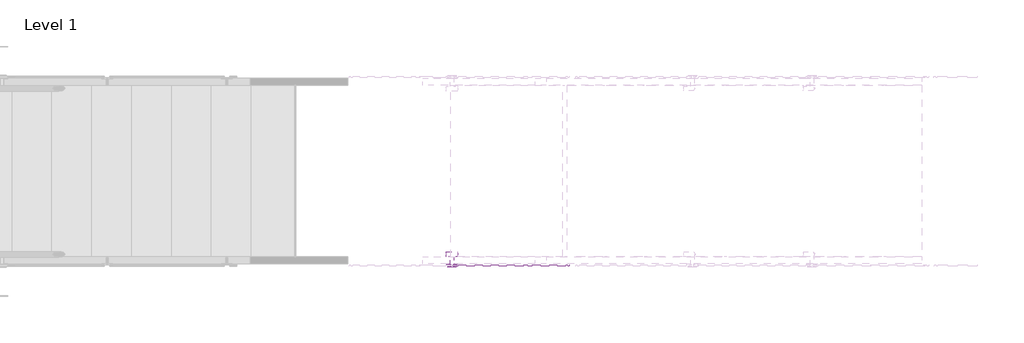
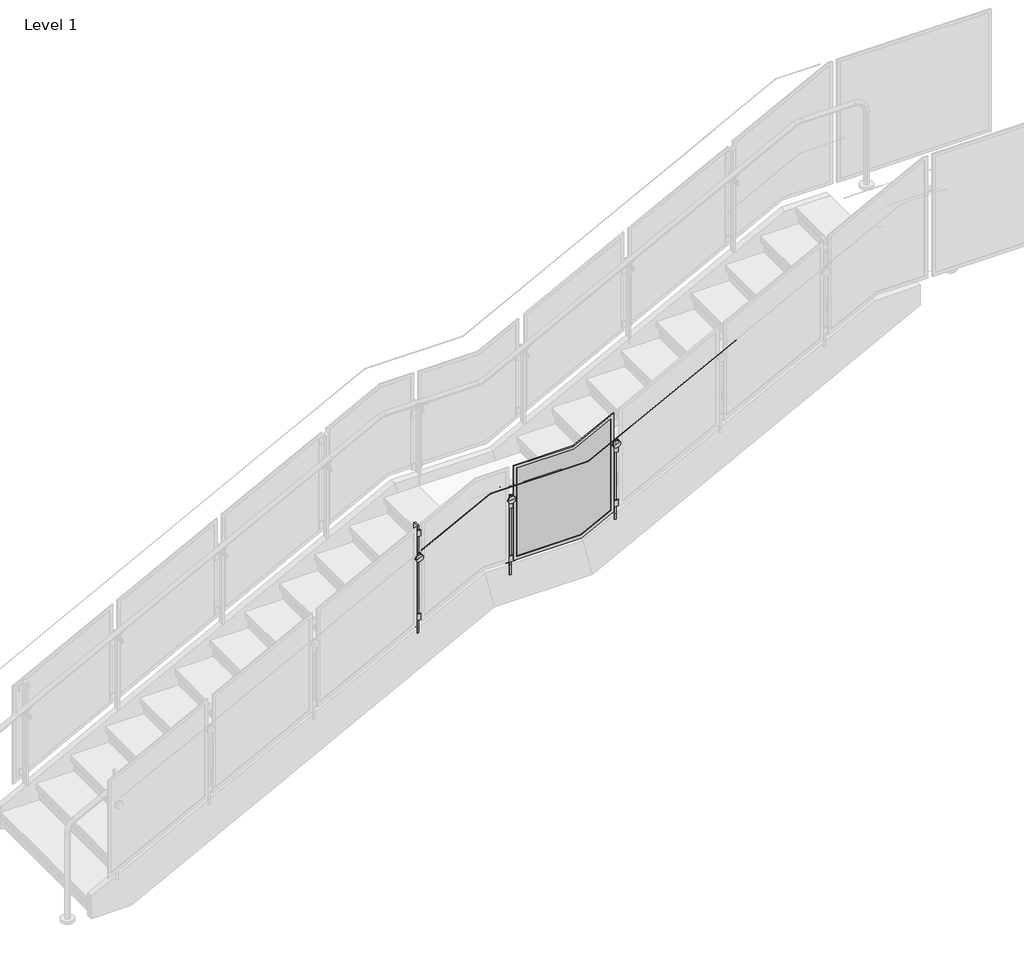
# One storey, part 5 of 28: 2 railings.
"""IFC4 building model written with IfcOpenShell, lengths in millimetres."""

from ifc_helpers import new_model, si_unit, point, frame, frame_2d, origin, place, context, project, spatial, polyline, circle_curve, ellipse_curve, trimmed, segment, composite_curve, outline, extrude, transform, mapped, element, save
from ifc_brep_helpers import plane_surface, cylinder_surface, advanced_brep
from components import standard_pp01_0fd2b1c0

model = new_model("IFC4")

# Units and contexts
model_context = context("Model", 3, world=origin())
ifc_project = project(units=[si_unit("LENGTHUNIT", "METRE", prefix="MILLI")], contexts=[model_context])

# Site, building, storey
site = spatial("IfcSite", under=ifc_project)
building = spatial("IfcBuilding", under=site)
storey = spatial("IfcBuildingStorey", under=building, Name="Level 1", Elevation=0.0)

# Railings
placement = place(None, origin())
element("IfcRailing", 1, ObjectType="Metal-Panel-VIVA-STRUC-Slab-Top-Weld-Stairs-Landing", at=placement, inside=storey, context=model_context, shape_type="SolidModel", body=[
    advanced_brep(
    [(-16484.3313244, -31698.1375116, 2381.2638324), (-16484.3313244, -31697.1375116, 2381.2638324), (-15931.7592018, -31698.1375116, 2668.3142857), (-15931.7592018, -31697.1375116, 2668.3142857), (-15144.3592018, -31698.1375116, 2668.3142857), (-15144.3592018, -31697.1375116, 2668.3142857), (-13959.1395244, -31698.1375116, 3284.0128194), (-13959.1395244, -31697.1375116, 3284.0128194)],
    [
        (0, 1, ellipse_curve(frame((-16484.3313244, -31697.6375116, 2381.2638324), z_axis=(-1.0, 0.0, 0.0), x_axis=(0.0, 0.0, -1.0)), 0.5634403, 0.5)),
        (1, 0, ellipse_curve(frame((-16484.3313244, -31697.6375116, 2381.2638324), z_axis=(-1.0, 0.0, 0.0), x_axis=(0.0, 0.0, -1.0)), 0.5634403, 0.5)),
        (0, 2),
        (2, 3, ellipse_curve(frame((-15931.7592018, -31697.6375116, 2668.3142857), z_axis=(-0.9714436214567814, 0.0, -0.23727050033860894), x_axis=(0.23727050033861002, 0.0, -0.971443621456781)), 0.5146979, 0.5)),
        (3, 1),
        (3, 2, ellipse_curve(frame((-15931.7592018, -31697.6375116, 2668.3142857), z_axis=(-0.9714436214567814, 0.0, -0.23727050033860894), x_axis=(0.23727050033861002, 0.0, -0.971443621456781)), 0.5146979, 0.5)),
        (2, 4),
        (4, 5, ellipse_curve(frame((-15144.3592018, -31697.6375116, 2668.3142857), z_axis=(-0.9714436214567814, 0.0, -0.2372705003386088), x_axis=(-0.23727050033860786, 0.0, 0.9714436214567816)), 0.5146979, 0.5)),
        (5, 3),
        (5, 4, ellipse_curve(frame((-15144.3592018, -31697.6375116, 2668.3142857), z_axis=(-0.9714436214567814, 0.0, -0.2372705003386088), x_axis=(-0.23727050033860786, 0.0, 0.9714436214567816)), 0.5146979, 0.5)),
        (6, 7, ellipse_curve(frame((-13959.1395244, -31697.6375116, 3284.0128194), z_axis=(1.0, 0.0, 0.0), x_axis=(0.0, 0.0, -1.0)), 0.5634403, 0.5)),
        (7, 6, ellipse_curve(frame((-13959.1395244, -31697.6375116, 3284.0128194), z_axis=(1.0, 0.0, 0.0), x_axis=(0.0, 0.0, -1.0)), 0.5634403, 0.5)),
        (4, 6),
        (7, 5),
    ],
    [
        plane_surface(frame((-16484.3313244, -31697.6375116, 2381.8272727), z_axis=(-1.0, 0.0, 0.0), x_axis=(0.0, 1.0, 0.0))),
        cylinder_surface(frame((-16484.1008295, -31697.6375116, 2381.38357), z_axis=(-0.8874054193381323, 0.0, -0.46098982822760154), x_axis=(0.0, 1.0, 0.0)), 0.5),
        cylinder_surface(frame((-15931.8813244, -31697.6375116, 2668.3142857), z_axis=(-1.0, 0.0, 0.0), x_axis=(0.0, 1.0, 0.0)), 0.5),
        plane_surface(frame((-13959.1395244, -31697.6375116, 3284.5762597), z_axis=(1.0, 0.0, 0.0), x_axis=(0.0, 1.0, 0.0))),
        cylinder_surface(frame((-15144.2508295, -31697.6375116, 2668.370583), z_axis=(-0.8874054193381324, 0.0, -0.46098982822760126), x_axis=(0.0, 1.0, 0.0)), 0.5),
    ],
    [
        (0, [[1, 2]]),
        (1, [[-1, 3, 4, 5]]),
        (1, [[-2, -5, 6, -3]]),
        (2, [[-4, 7, 8, 9]]),
        (2, [[-6, -9, 10, -7]]),
        (3, [[11, 12]]),
        (4, [[-8, 13, -12, 14]]),
        (4, [[-10, -14, -11, -13]]),
    ],
),
    extrude(outline(polyline([(-14838.9708437, -31472.8759116), (-14762.7694052, -31472.8759116), (-14762.7694052, -31479.9879116), (-14838.9708437, -31479.9879116), (-14838.9708437, -31472.8759116)])), frame((0.0, 0.0, 2490.1896104), z_axis=(0.0, 0.0, 1.0), x_axis=(1.0, 0.0, 0.0)), (0.0, 0.0, 1.0), 50.8),
    extrude(outline(polyline([(-14838.9708437, -31472.8759116), (-14762.7694052, -31472.8759116), (-14762.7694052, -31479.9879116), (-14838.9708437, -31479.9879116), (-14838.9708437, -31472.8759116)])), frame((0.0, 0.0, 2032.9896104), z_axis=(0.0, 0.0, 1.0), x_axis=(1.0, 0.0, 0.0)), (0.0, 0.0, 1.0), 50.8),
    extrude(outline(composite_curve([segment(polyline([(2.99974, 1e-07), (0.0, 0.0)]), True, "CONTINUOUS"), segment(trimmed(circle_curve(frame_2d((-19.0451472, -1e-07)), 19.0451471), [point((0.0, 0.0))], [point((-23.6280664, 18.4855208))], True, "CARTESIAN"), True, "CONTINUOUS"), segment(polyline([(-23.6280664, 18.4855208), (-24.3499073, 21.397116)]), True, "CONTINUOUS"), segment(trimmed(circle_curve(frame_2d((-19.0451472, -1e-07)), 22.0448871), [point((-24.3499073, 21.397116))], [point((2.99974, 1e-07))], False, "CARTESIAN"), True, "CONTINUOUS")], self_intersect=False)), frame((-14863.3578349, -31418.7879116, 2605.6654072), z_axis=(0.8874054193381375, 0.0, 0.4609898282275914), x_axis=(0.28405456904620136, -0.7876022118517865, -0.5468050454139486)), (0.0, 0.0, 1.0), 79.1184357),
    advanced_brep(
    [(-14788.4729468, -31403.7879116, 2547.3256434), (-14788.4729468, -31410.9316616, 2547.3256434), (-14788.4729468, -31396.6441616, 2547.3256434), (-14824.3321931, -31410.9316616, 2616.3546925), (-14824.3321931, -31403.7879116, 2616.3546925), (-14824.3321931, -31396.6441616, 2616.3546925)],
    [
        (0, 1),
        (1, 2, circle_curve(frame((-14788.4729468, -31403.7879116, 2547.3256434), z_axis=(0.46098982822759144, 0.0, -0.8874054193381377), x_axis=(0.0, 1.0000000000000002, 0.0)), 7.14375)),
        (2, 0),
        (3, 4),
        (4, 5),
        (5, 3, circle_curve(frame((-14824.3321931, -31403.7879116, 2616.3546925), z_axis=(-0.46098982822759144, 0.0, 0.8874054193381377), x_axis=(0.0, 1.0000000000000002, 0.0)), 7.14375)),
        (2, 1, circle_curve(frame((-14788.4729468, -31403.7879116, 2547.3256434), z_axis=(0.46098982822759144, 0.0, -0.8874054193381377), x_axis=(0.0, 1.0000000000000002, 0.0)), 7.14375)),
        (3, 5, circle_curve(frame((-14824.3321931, -31403.7879116, 2616.3546925), z_axis=(-0.46098982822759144, 0.0, 0.8874054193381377), x_axis=(0.0, 1.0000000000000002, 0.0)), 7.14375)),
        (1, 3),
        (5, 2),
    ],
    [
        plane_surface(frame((-14788.4729468, -31403.7879116, 2547.3256434), z_axis=(0.46098982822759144, 0.0, -0.8874054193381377), x_axis=(0.0, 1.0, 0.0))),
        plane_surface(frame((-14824.3321931, -31403.7879116, 2616.3546925), z_axis=(-0.46098982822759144, 0.0, 0.8874054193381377), x_axis=(0.0, 1.0, 0.0))),
        cylinder_surface(frame((-14671.5187469, -31403.7879116, 2322.1888087), z_axis=(0.46098982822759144, 0.0, -0.8874054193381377), x_axis=(0.0, 1.0000000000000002, 0.0)), 7.14375),
    ],
    [
        (0, [[1, 2, 3]]),
        (1, [[4, 5, 6]]),
        (0, [[-3, 7, -1]]),
        (1, [[-5, -4, 8]]),
        (2, [[9, -6, 10, -2]]),
        (2, [[-10, -8, -9, -7]]),
    ],
),
    advanced_brep(
    [(-14827.6364904, -31489.5129116, 2557.2856047), (-14806.5051488, -31489.5129116, 2568.262925), (-14795.2351, -31489.5129116, 2574.1174958), (-14774.1037585, -31489.5129116, 2585.0948161), (-14827.6364904, -31497.4504116, 2557.2856047), (-14774.1037585, -31497.4504116, 2585.0948161), (-14827.6364904, -31472.0504116, 2557.2856047), (-14812.1401733, -31472.0504116, 2565.3356396), (-14789.6000756, -31472.0504116, 2577.0447812), (-14774.1037585, -31472.0504116, 2585.0948161), (-14827.6364904, -31479.9879116, 2557.2856047), (-14774.1037585, -31479.9879116, 2585.0948161), (-14800.8701244, -31497.4504116, 2571.1902104), (-14812.1401733, -31392.6754116, 2565.3356396), (-14800.8701244, -31392.6754116, 2571.1902104), (-14789.6000756, -31392.6754116, 2577.0447812), (-14806.5051488, -31479.9879116, 2568.262925), (-14795.2351, -31479.9879116, 2574.1174958)],
    [
        (0, 1),
        (1, 2, circle_curve(frame((-14800.8701244, -31489.5129116, 2571.1902104), z_axis=(0.0, -1.0, 0.0), x_axis=(0.8874054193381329, 0.0, 0.46098982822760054)), 6.35)),
        (2, 3),
        (3, 0, circle_curve(frame((-14800.8701244, -31489.5129116, 2571.1902104), z_axis=(0.0, 1.0, 0.0), x_axis=(0.8874054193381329, 0.0, 0.46098982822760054)), 30.1625)),
        (4, 0),
        (3, 5),
        (5, 4, circle_curve(frame((-14800.8701244, -31497.4504116, 2571.1902104), z_axis=(0.0, 1.0, 0.0), x_axis=(0.8874054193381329, 0.0, 0.46098982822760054)), 30.1625)),
        (6, 7),
        (7, 8, circle_curve(frame((-14800.8701244, -31472.0504116, 2571.1902104), z_axis=(0.0, -1.0, 0.0), x_axis=(0.8874054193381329, 0.0, 0.46098982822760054)), 12.7)),
        (8, 9),
        (9, 6, circle_curve(frame((-14800.8701244, -31472.0504116, 2571.1902104), z_axis=(0.0, 1.0, 0.0), x_axis=(0.8874054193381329, 0.0, 0.46098982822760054)), 30.1625)),
        (10, 6),
        (9, 11),
        (11, 10, circle_curve(frame((-14800.8701244, -31479.9879116, 2571.1902104), z_axis=(0.0, 1.0, 0.0), x_axis=(0.8874054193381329, 0.0, 0.46098982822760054)), 30.1625)),
        (3, 0, circle_curve(frame((-14800.8701244, -31489.5129116, 2571.1902104), z_axis=(0.0, -1.0, 0.0), x_axis=(0.8874054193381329, 0.0, 0.46098982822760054)), 30.1625)),
        (4, 5, circle_curve(frame((-14800.8701244, -31497.4504116, 2571.1902104), z_axis=(0.0, 1.0, 0.0), x_axis=(0.8874054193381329, 0.0, 0.46098982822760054)), 30.1625)),
        (12, 4),
        (5, 12),
        (13, 14),
        (14, 15),
        (15, 13, circle_curve(frame((-14800.8701244, -31392.6754116, 2571.1902104), z_axis=(0.0, 1.0, 0.0), x_axis=(0.8874054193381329, 0.0, 0.46098982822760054)), 12.7)),
        (13, 15, circle_curve(frame((-14800.8701244, -31392.6754116, 2571.1902104), z_axis=(0.0, 1.0, 0.0), x_axis=(0.8874054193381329, 0.0, 0.46098982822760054)), 12.7)),
        (7, 13),
        (15, 8),
        (7, 8, circle_curve(frame((-14800.8701244, -31472.0504116, 2571.1902104), z_axis=(0.0, 1.0, 0.0), x_axis=(0.8874054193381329, 0.0, 0.46098982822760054)), 12.7)),
        (6, 9, circle_curve(frame((-14800.8701244, -31472.0504116, 2571.1902104), z_axis=(0.0, 1.0, 0.0), x_axis=(0.8874054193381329, 0.0, 0.46098982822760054)), 30.1625)),
        (10, 11, circle_curve(frame((-14800.8701244, -31479.9879116, 2571.1902104), z_axis=(0.0, 1.0, 0.0), x_axis=(0.8874054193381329, 0.0, 0.46098982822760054)), 30.1625)),
        (16, 10),
        (11, 17),
        (17, 16, circle_curve(frame((-14800.8701244, -31479.9879116, 2571.1902104), z_axis=(0.0, 1.0, 0.0), x_axis=(0.8874054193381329, 0.0, 0.46098982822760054)), 6.35)),
        (16, 17, circle_curve(frame((-14800.8701244, -31479.9879116, 2571.1902104), z_axis=(0.0, 1.0, 0.0), x_axis=(0.8874054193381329, 0.0, 0.46098982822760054)), 6.35)),
        (1, 16),
        (17, 2),
        (1, 2, circle_curve(frame((-14800.8701244, -31489.5129116, 2571.1902104), z_axis=(0.0, 1.0, 0.0), x_axis=(0.8874054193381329, 0.0, 0.46098982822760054)), 6.35)),
    ],
    [
        plane_surface(frame((-14800.8701244, -31489.5129116, 2571.1902104), z_axis=(0.0, 1.0000000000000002, 0.0), x_axis=(0.8874054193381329, 0.0, 0.46098982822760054))),
        cylinder_surface(frame((-14800.8701244, -33003.9879116, 2571.1902104), z_axis=(0.0, -1.0000000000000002, 0.0), x_axis=(0.8874054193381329, 0.0, 0.46098982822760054)), 30.1625),
        plane_surface(frame((-14800.8701244, -31472.0504116, 2571.1902104), z_axis=(0.0, 1.0000000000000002, 0.0), x_axis=(0.8874054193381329, 0.0, 0.46098982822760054))),
        plane_surface(frame((-14800.8701244, -31497.4504116, 2571.1902104), z_axis=(0.0, -1.0000000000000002, 0.0), x_axis=(0.8874054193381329, 0.0, 0.46098982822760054))),
        plane_surface(frame((-14800.8701244, -31392.6754116, 2571.1902104), z_axis=(0.0, 1.0000000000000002, 0.0), x_axis=(0.8874054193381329, 0.0, 0.46098982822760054))),
        cylinder_surface(frame((-14800.8701244, -33003.9879116, 2571.1902104), z_axis=(0.0, -1.0000000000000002, 0.0), x_axis=(0.8874054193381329, 0.0, 0.46098982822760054)), 12.7),
        plane_surface(frame((-14800.8701244, -31479.9879116, 2571.1902104), z_axis=(0.0, -1.0000000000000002, 0.0), x_axis=(0.8874054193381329, 0.0, 0.46098982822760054))),
        cylinder_surface(frame((-14800.8701244, -33003.9879116, 2571.1902104), z_axis=(0.0, -1.0000000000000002, 0.0), x_axis=(0.8874054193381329, 0.0, 0.46098982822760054)), 6.35),
    ],
    [
        (0, [[1, 2, 3, 4]]),
        (1, [[5, -4, 6, 7]]),
        (2, [[8, 9, 10, 11]]),
        (1, [[12, -11, 13, 14]]),
        (1, [[-6, 15, -5, 16]]),
        (3, [[17, -7, 18]]),
        (3, [[-18, -16, -17]]),
        (4, [[19, 20, 21]]),
        (4, [[-20, -19, 22]]),
        (5, [[23, -21, 24, -9]]),
        (5, [[-24, -22, -23, 25]]),
        (2, [[-10, -25, -8, 26]]),
        (1, [[-13, -26, -12, 27]]),
        (6, [[28, -14, 29, 30]]),
        (6, [[-29, -27, -28, 31]]),
        (7, [[32, -30, 33, -2]]),
        (7, [[-33, -31, -32, 34]]),
        (0, [[-3, -34, -1, -15]]),
    ],
),
    extrude(outline(polyline([(-14808.8097161, -31428.4259116), (-14792.9305328, -31428.4259116), (-14792.9305328, -31472.8759116), (-14808.8097161, -31472.8759116), (-14808.8097161, -31428.4259116)])), frame((0.0, 0.0, 1920.2136104), z_axis=(0.0, 0.0, 1.0), x_axis=(1.0, 0.0, 0.0)), (0.0, 0.0, 1.0), 660.4),
    extrude(outline(polyline([(-15680.7014437, -31472.8759116), (-15604.5000052, -31472.8759116), (-15604.5000052, -31479.9879116), (-15680.7014437, -31479.9879116), (-15680.7014437, -31472.8759116)])), frame((0.0, 0.0, 2311.6902857), z_axis=(0.0, 0.0, 1.0), x_axis=(1.0, 0.0, 0.0)), (0.0, 0.0, 1.0), 50.8),
    extrude(outline(polyline([(-15680.7014437, -31472.8759116), (-15604.5000052, -31472.8759116), (-15604.5000052, -31479.9879116), (-15680.7014437, -31479.9879116), (-15680.7014437, -31472.8759116)])), frame((0.0, 0.0, 1854.4902857), z_axis=(0.0, 0.0, 1.0), x_axis=(1.0, 0.0, 0.0)), (0.0, 0.0, 1.0), 50.8),
    extrude(outline(composite_curve([segment(polyline([(-31421.1505134, 2450.2421693), (-31418.7879116, 2452.0905611)]), True, "CONTINUOUS"), segment(trimmed(circle_curve(frame_2d((-31403.7879116, 2463.8258766)), 19.0451471), [point((-31418.7879116, 2452.0905611))], [point((-31388.7879116, 2452.0905611))], True, "CARTESIAN"), True, "CONTINUOUS"), segment(polyline([(-31388.7879116, 2452.0905611), (-31386.4253097, 2450.2421693)]), True, "CONTINUOUS"), segment(trimmed(circle_curve(frame_2d((-31403.7879116, 2463.8258766)), 22.0448871), [point((-31386.4253097, 2450.2421693))], [point((-31421.1505134, 2450.2421693))], False, "CARTESIAN"), True, "CONTINUOUS")], self_intersect=False)), frame((-15682.1599423, 0.0, 0.0), z_axis=(1.0, 0.0, 0.0), x_axis=(0.0, 1.0, 0.0)), (0.0, 0.0, 1.0), 79.1184357),
    advanced_brep(
    [(-15642.6007244, -31403.7879116, 2365.7983669), (-15642.6007244, -31410.9316616, 2365.7983669), (-15642.6007244, -31396.6441616, 2365.7983669), (-15642.6007244, -31410.9316616, 2443.5858669), (-15642.6007244, -31403.7879116, 2443.5858669), (-15642.6007244, -31396.6441616, 2443.5858669)],
    [
        (0, 1),
        (1, 2, circle_curve(frame((-15642.6007244, -31403.7879116, 2365.7983669), z_axis=(0.0, 0.0, -1.0), x_axis=(0.0, 1.0, 0.0)), 7.14375)),
        (2, 0),
        (3, 4),
        (4, 5),
        (5, 3, circle_curve(frame((-15642.6007244, -31403.7879116, 2443.5858669), z_axis=(0.0, 0.0, 1.0), x_axis=(0.0, 1.0, 0.0)), 7.14375)),
        (2, 1, circle_curve(frame((-15642.6007244, -31403.7879116, 2365.7983669), z_axis=(0.0, 0.0, -1.0), x_axis=(0.0, 1.0, 0.0)), 7.14375)),
        (3, 5, circle_curve(frame((-15642.6007244, -31403.7879116, 2443.5858669), z_axis=(0.0, 0.0, 1.0), x_axis=(0.0, 1.0, 0.0)), 7.14375)),
        (1, 3),
        (5, 2),
    ],
    [
        plane_surface(frame((-15642.6007244, -31403.7879116, 2365.7983669), z_axis=(0.0, 0.0, -1.0), x_axis=(0.0, 1.0, 0.0))),
        plane_surface(frame((-15642.6007244, -31403.7879116, 2443.5858669), z_axis=(0.0, 0.0, 1.0), x_axis=(0.0, 1.0, 0.0))),
        cylinder_surface(frame((-15642.6007244, -31403.7879116, 2112.0960231), z_axis=(0.0, 0.0, -1.0), x_axis=(0.0, 1.0, 0.0)), 7.14375),
    ],
    [
        (0, [[1, 2, 3]]),
        (1, [[4, 5, 6]]),
        (0, [[-3, 7, -1]]),
        (1, [[-5, -4, 8]]),
        (2, [[9, -6, 10, -2]]),
        (2, [[-10, -8, -9, -7]]),
    ],
),
    advanced_brep(
    [(-15672.7632244, -31489.5129116, 2392.6908857), (-15648.9507244, -31489.5129116, 2392.6908857), (-15636.2507244, -31489.5129116, 2392.6908857), (-15612.4382244, -31489.5129116, 2392.6908857), (-15672.7632244, -31497.4504116, 2392.6908857), (-15612.4382244, -31497.4504116, 2392.6908857), (-15672.7632244, -31472.0504116, 2392.6908857), (-15655.3007244, -31472.0504116, 2392.6908857), (-15629.9007244, -31472.0504116, 2392.6908857), (-15612.4382244, -31472.0504116, 2392.6908857), (-15672.7632244, -31479.9879116, 2392.6908857), (-15612.4382244, -31479.9879116, 2392.6908857), (-15642.6007244, -31497.4504116, 2392.6908857), (-15655.3007244, -31392.6754116, 2392.6908857), (-15642.6007244, -31392.6754116, 2392.6908857), (-15629.9007244, -31392.6754116, 2392.6908857), (-15648.9507244, -31479.9879116, 2392.6908857), (-15636.2507244, -31479.9879116, 2392.6908857)],
    [
        (0, 1),
        (1, 2, circle_curve(frame((-15642.6007244, -31489.5129116, 2392.6908857), z_axis=(0.0, -1.0, 0.0), x_axis=(1.0, 0.0, 0.0)), 6.35)),
        (2, 3),
        (3, 0, circle_curve(frame((-15642.6007244, -31489.5129116, 2392.6908857), z_axis=(0.0, 1.0, 0.0), x_axis=(1.0, 0.0, 0.0)), 30.1625)),
        (4, 0),
        (3, 5),
        (5, 4, circle_curve(frame((-15642.6007244, -31497.4504116, 2392.6908857), z_axis=(0.0, 1.0, 0.0), x_axis=(1.0, 0.0, 0.0)), 30.1625)),
        (6, 7),
        (7, 8, circle_curve(frame((-15642.6007244, -31472.0504116, 2392.6908857), z_axis=(0.0, -1.0, 0.0), x_axis=(1.0, 0.0, 0.0)), 12.7)),
        (8, 9),
        (9, 6, circle_curve(frame((-15642.6007244, -31472.0504116, 2392.6908857), z_axis=(0.0, 1.0, 0.0), x_axis=(1.0, 0.0, 0.0)), 30.1625)),
        (10, 6),
        (9, 11),
        (11, 10, circle_curve(frame((-15642.6007244, -31479.9879116, 2392.6908857), z_axis=(0.0, 1.0, 0.0), x_axis=(1.0, 0.0, 0.0)), 30.1625)),
        (3, 0, circle_curve(frame((-15642.6007244, -31489.5129116, 2392.6908857), z_axis=(0.0, -1.0, 0.0), x_axis=(1.0, 0.0, 0.0)), 30.1625)),
        (4, 5, circle_curve(frame((-15642.6007244, -31497.4504116, 2392.6908857), z_axis=(0.0, 1.0, 0.0), x_axis=(1.0, 0.0, 0.0)), 30.1625)),
        (12, 4),
        (5, 12),
        (13, 14),
        (14, 15),
        (15, 13, circle_curve(frame((-15642.6007244, -31392.6754116, 2392.6908857), z_axis=(0.0, 1.0, 0.0), x_axis=(1.0, 0.0, 0.0)), 12.7)),
        (13, 15, circle_curve(frame((-15642.6007244, -31392.6754116, 2392.6908857), z_axis=(0.0, 1.0, 0.0), x_axis=(1.0, 0.0, 0.0)), 12.7)),
        (7, 13),
        (15, 8),
        (7, 8, circle_curve(frame((-15642.6007244, -31472.0504116, 2392.6908857), z_axis=(0.0, 1.0, 0.0), x_axis=(1.0, 0.0, 0.0)), 12.7)),
        (6, 9, circle_curve(frame((-15642.6007244, -31472.0504116, 2392.6908857), z_axis=(0.0, 1.0, 0.0), x_axis=(1.0, 0.0, 0.0)), 30.1625)),
        (10, 11, circle_curve(frame((-15642.6007244, -31479.9879116, 2392.6908857), z_axis=(0.0, 1.0, 0.0), x_axis=(1.0, 0.0, 0.0)), 30.1625)),
        (16, 10),
        (11, 17),
        (17, 16, circle_curve(frame((-15642.6007244, -31479.9879116, 2392.6908857), z_axis=(0.0, 1.0, 0.0), x_axis=(1.0, 0.0, 0.0)), 6.35)),
        (16, 17, circle_curve(frame((-15642.6007244, -31479.9879116, 2392.6908857), z_axis=(0.0, 1.0, 0.0), x_axis=(1.0, 0.0, 0.0)), 6.35)),
        (1, 16),
        (17, 2),
        (1, 2, circle_curve(frame((-15642.6007244, -31489.5129116, 2392.6908857), z_axis=(0.0, 1.0, 0.0), x_axis=(1.0, 0.0, 0.0)), 6.35)),
    ],
    [
        plane_surface(frame((-15642.6007244, -31489.5129116, 2392.6908857), z_axis=(0.0, 1.0, 0.0), x_axis=(1.0, 0.0, 0.0))),
        cylinder_surface(frame((-15642.6007244, -33003.9879116, 2392.6908857), z_axis=(0.0, -1.0, 0.0), x_axis=(1.0, 0.0, 0.0)), 30.1625),
        plane_surface(frame((-15642.6007244, -31472.0504116, 2392.6908857), z_axis=(0.0, 1.0, 0.0), x_axis=(1.0, 0.0, 0.0))),
        plane_surface(frame((-15642.6007244, -31497.4504116, 2392.6908857), z_axis=(0.0, -1.0, 0.0), x_axis=(1.0, 0.0, 0.0))),
        plane_surface(frame((-15642.6007244, -31392.6754116, 2392.6908857), z_axis=(0.0, 1.0, 0.0), x_axis=(1.0, 0.0, 0.0))),
        cylinder_surface(frame((-15642.6007244, -33003.9879116, 2392.6908857), z_axis=(0.0, -1.0, 0.0), x_axis=(1.0, 0.0, 0.0)), 12.7),
        plane_surface(frame((-15642.6007244, -31479.9879116, 2392.6908857), z_axis=(0.0, -1.0, 0.0), x_axis=(1.0, 0.0, 0.0))),
        cylinder_surface(frame((-15642.6007244, -33003.9879116, 2392.6908857), z_axis=(0.0, -1.0, 0.0), x_axis=(1.0, 0.0, 0.0)), 6.35),
    ],
    [
        (0, [[1, 2, 3, 4]]),
        (1, [[5, -4, 6, 7]]),
        (2, [[8, 9, 10, 11]]),
        (1, [[12, -11, 13, 14]]),
        (1, [[-6, 15, -5, 16]]),
        (3, [[17, -7, 18]]),
        (3, [[-18, -16, -17]]),
        (4, [[19, 20, 21]]),
        (4, [[-20, -19, 22]]),
        (5, [[23, -21, 24, -9]]),
        (5, [[-24, -22, -23, 25]]),
        (2, [[-10, -25, -8, 26]]),
        (1, [[-13, -26, -12, 27]]),
        (6, [[28, -14, 29, 30]]),
        (6, [[-29, -27, -28, 31]]),
        (7, [[32, -30, 33, -2]]),
        (7, [[-33, -31, -32, 34]]),
        (0, [[-3, -34, -1, -15]]),
    ],
),
    extrude(outline(polyline([(-15650.5403161, -31428.4259116), (-15634.6611328, -31428.4259116), (-15634.6611328, -31472.8759116), (-15650.5403161, -31472.8759116), (-15650.5403161, -31428.4259116)])), frame((0.0, 0.0, 1741.7142857), z_axis=(0.0, 0.0, 1.0), x_axis=(1.0, 0.0, 0.0)), (0.0, 0.0, 1.0), 660.4),
    extrude(outline(polyline([(-16420.8320437, -31472.8759116), (-16344.6306052, -31472.8759116), (-16344.6306052, -31479.9879116), (-16420.8320437, -31479.9879116), (-16420.8320437, -31472.8759116)])), frame((0.0, 0.0, 2331.4824935), z_axis=(0.0, 0.0, 1.0), x_axis=(1.0, 0.0, 0.0)), (0.0, 0.0, 1.0), 50.8),
    extrude(outline(polyline([(-16420.8320437, -31472.8759116), (-16344.6306052, -31472.8759116), (-16344.6306052, -31479.9879116), (-16420.8320437, -31479.9879116), (-16420.8320437, -31472.8759116)])), frame((0.0, 0.0, 1620.2824935), z_axis=(0.0, 0.0, 1.0), x_axis=(1.0, 0.0, 0.0)), (0.0, 0.0, 1.0), 50.8),
    extrude(outline(composite_curve([segment(polyline([(2.9997399, 0.0), (0.0, 0.0)]), True, "CONTINUOUS"), segment(trimmed(circle_curve(frame_2d((-19.0451472, -1e-07)), 19.0451471), [point((0.0, 0.0))], [point((-23.6280664, 18.4855208))], True, "CARTESIAN"), True, "CONTINUOUS"), segment(polyline([(-23.6280664, 18.4855208), (-24.3499073, 21.3971159)]), True, "CONTINUOUS"), segment(trimmed(circle_curve(frame_2d((-19.0451472, -1e-07)), 22.0448871), [point((-24.3499073, 21.3971159))], [point((2.9997399, 0.0))], False, "CARTESIAN"), True, "CONTINUOUS")], self_intersect=False)), frame((-16445.2190349, -31418.7879116, 2192.9582903), z_axis=(0.8874054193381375, 0.0, 0.4609898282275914), x_axis=(0.28405456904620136, -0.7876022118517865, -0.5468050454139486)), (0.0, 0.0, 1.0), 79.1184357),
    advanced_brep(
    [(-16370.3341468, -31403.7879116, 2134.6185266), (-16370.3341468, -31410.9316616, 2134.6185266), (-16370.3341468, -31396.6441616, 2134.6185266), (-16406.1933931, -31410.9316616, 2203.6475756), (-16406.1933931, -31403.7879116, 2203.6475756), (-16406.1933931, -31396.6441616, 2203.6475756)],
    [
        (0, 1),
        (1, 2, circle_curve(frame((-16370.3341468, -31403.7879116, 2134.6185266), z_axis=(0.46098982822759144, 0.0, -0.8874054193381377), x_axis=(0.0, 1.0000000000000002, 0.0)), 7.14375)),
        (2, 0),
        (3, 4),
        (4, 5),
        (5, 3, circle_curve(frame((-16406.1933931, -31403.7879116, 2203.6475756), z_axis=(-0.46098982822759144, 0.0, 0.8874054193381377), x_axis=(0.0, 1.0000000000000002, 0.0)), 7.14375)),
        (2, 1, circle_curve(frame((-16370.3341468, -31403.7879116, 2134.6185266), z_axis=(0.46098982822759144, 0.0, -0.8874054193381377), x_axis=(0.0, 1.0000000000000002, 0.0)), 7.14375)),
        (3, 5, circle_curve(frame((-16406.1933931, -31403.7879116, 2203.6475756), z_axis=(-0.46098982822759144, 0.0, 0.8874054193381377), x_axis=(0.0, 1.0000000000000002, 0.0)), 7.14375)),
        (1, 3),
        (5, 2),
    ],
    [
        plane_surface(frame((-16370.3341468, -31403.7879116, 2134.6185266), z_axis=(0.46098982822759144, 0.0, -0.8874054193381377), x_axis=(0.0, 1.0, 0.0))),
        plane_surface(frame((-16406.1933931, -31403.7879116, 2203.6475756), z_axis=(-0.46098982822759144, 0.0, 0.8874054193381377), x_axis=(0.0, 1.0, 0.0))),
        cylinder_surface(frame((-16253.3799469, -31403.7879116, 1909.4816918), z_axis=(0.46098982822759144, 0.0, -0.8874054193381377), x_axis=(0.0, 1.0000000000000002, 0.0)), 7.14375),
    ],
    [
        (0, [[1, 2, 3]]),
        (1, [[4, 5, 6]]),
        (0, [[-3, 7, -1]]),
        (1, [[-5, -4, 8]]),
        (2, [[9, -6, 10, -2]]),
        (2, [[-10, -8, -9, -7]]),
    ],
),
    advanced_brep(
    [(-16409.4976904, -31489.5129116, 2144.5784878), (-16388.3663488, -31489.5129116, 2155.5558081), (-16377.0963, -31489.5129116, 2161.4103789), (-16355.9649585, -31489.5129116, 2172.3876992), (-16409.4976904, -31497.4504116, 2144.5784878), (-16355.9649585, -31497.4504116, 2172.3876992), (-16409.4976904, -31472.0504116, 2144.5784878), (-16394.0013733, -31472.0504116, 2152.6285227), (-16371.4612756, -31472.0504116, 2164.3376643), (-16355.9649585, -31472.0504116, 2172.3876992), (-16409.4976904, -31479.9879116, 2144.5784878), (-16355.9649585, -31479.9879116, 2172.3876992), (-16382.7313244, -31497.4504116, 2158.4830935), (-16394.0013733, -31392.6754116, 2152.6285227), (-16382.7313244, -31392.6754116, 2158.4830935), (-16371.4612756, -31392.6754116, 2164.3376643), (-16388.3663488, -31479.9879116, 2155.5558081), (-16377.0963, -31479.9879116, 2161.4103789)],
    [
        (0, 1),
        (1, 2, circle_curve(frame((-16382.7313244, -31489.5129116, 2158.4830935), z_axis=(0.0, -1.0, 0.0), x_axis=(0.8874054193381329, 0.0, 0.46098982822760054)), 6.35)),
        (2, 3),
        (3, 0, circle_curve(frame((-16382.7313244, -31489.5129116, 2158.4830935), z_axis=(0.0, 1.0, 0.0), x_axis=(0.8874054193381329, 0.0, 0.46098982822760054)), 30.1625)),
        (4, 0),
        (3, 5),
        (5, 4, circle_curve(frame((-16382.7313244, -31497.4504116, 2158.4830935), z_axis=(0.0, 1.0, 0.0), x_axis=(0.8874054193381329, 0.0, 0.46098982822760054)), 30.1625)),
        (6, 7),
        (7, 8, circle_curve(frame((-16382.7313244, -31472.0504116, 2158.4830935), z_axis=(0.0, -1.0, 0.0), x_axis=(0.8874054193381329, 0.0, 0.46098982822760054)), 12.7)),
        (8, 9),
        (9, 6, circle_curve(frame((-16382.7313244, -31472.0504116, 2158.4830935), z_axis=(0.0, 1.0, 0.0), x_axis=(0.8874054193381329, 0.0, 0.46098982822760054)), 30.1625)),
        (10, 6),
        (9, 11),
        (11, 10, circle_curve(frame((-16382.7313244, -31479.9879116, 2158.4830935), z_axis=(0.0, 1.0, 0.0), x_axis=(0.8874054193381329, 0.0, 0.46098982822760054)), 30.1625)),
        (3, 0, circle_curve(frame((-16382.7313244, -31489.5129116, 2158.4830935), z_axis=(0.0, -1.0, 0.0), x_axis=(0.8874054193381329, 0.0, 0.46098982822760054)), 30.1625)),
        (4, 5, circle_curve(frame((-16382.7313244, -31497.4504116, 2158.4830935), z_axis=(0.0, 1.0, 0.0), x_axis=(0.8874054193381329, 0.0, 0.46098982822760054)), 30.1625)),
        (12, 4),
        (5, 12),
        (13, 14),
        (14, 15),
        (15, 13, circle_curve(frame((-16382.7313244, -31392.6754116, 2158.4830935), z_axis=(0.0, 1.0, 0.0), x_axis=(0.8874054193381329, 0.0, 0.46098982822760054)), 12.7)),
        (13, 15, circle_curve(frame((-16382.7313244, -31392.6754116, 2158.4830935), z_axis=(0.0, 1.0, 0.0), x_axis=(0.8874054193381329, 0.0, 0.46098982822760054)), 12.7)),
        (7, 13),
        (15, 8),
        (7, 8, circle_curve(frame((-16382.7313244, -31472.0504116, 2158.4830935), z_axis=(0.0, 1.0, 0.0), x_axis=(0.8874054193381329, 0.0, 0.46098982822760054)), 12.7)),
        (6, 9, circle_curve(frame((-16382.7313244, -31472.0504116, 2158.4830935), z_axis=(0.0, 1.0, 0.0), x_axis=(0.8874054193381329, 0.0, 0.46098982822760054)), 30.1625)),
        (10, 11, circle_curve(frame((-16382.7313244, -31479.9879116, 2158.4830935), z_axis=(0.0, 1.0, 0.0), x_axis=(0.8874054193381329, 0.0, 0.46098982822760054)), 30.1625)),
        (16, 10),
        (11, 17),
        (17, 16, circle_curve(frame((-16382.7313244, -31479.9879116, 2158.4830935), z_axis=(0.0, 1.0, 0.0), x_axis=(0.8874054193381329, 0.0, 0.46098982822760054)), 6.35)),
        (16, 17, circle_curve(frame((-16382.7313244, -31479.9879116, 2158.4830935), z_axis=(0.0, 1.0, 0.0), x_axis=(0.8874054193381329, 0.0, 0.46098982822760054)), 6.35)),
        (1, 16),
        (17, 2),
        (1, 2, circle_curve(frame((-16382.7313244, -31489.5129116, 2158.4830935), z_axis=(0.0, 1.0, 0.0), x_axis=(0.8874054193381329, 0.0, 0.46098982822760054)), 6.35)),
    ],
    [
        plane_surface(frame((-16382.7313244, -31489.5129116, 2158.4830935), z_axis=(0.0, 1.0000000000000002, 0.0), x_axis=(0.8874054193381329, 0.0, 0.46098982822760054))),
        cylinder_surface(frame((-16382.7313244, -33003.9879116, 2158.4830935), z_axis=(0.0, -1.0000000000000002, 0.0), x_axis=(0.8874054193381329, 0.0, 0.46098982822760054)), 30.1625),
        plane_surface(frame((-16382.7313244, -31472.0504116, 2158.4830935), z_axis=(0.0, 1.0000000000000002, 0.0), x_axis=(0.8874054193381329, 0.0, 0.46098982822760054))),
        plane_surface(frame((-16382.7313244, -31497.4504116, 2158.4830935), z_axis=(0.0, -1.0000000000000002, 0.0), x_axis=(0.8874054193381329, 0.0, 0.46098982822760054))),
        plane_surface(frame((-16382.7313244, -31392.6754116, 2158.4830935), z_axis=(0.0, 1.0000000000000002, 0.0), x_axis=(0.8874054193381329, 0.0, 0.46098982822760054))),
        cylinder_surface(frame((-16382.7313244, -33003.9879116, 2158.4830935), z_axis=(0.0, -1.0000000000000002, 0.0), x_axis=(0.8874054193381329, 0.0, 0.46098982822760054)), 12.7),
        plane_surface(frame((-16382.7313244, -31479.9879116, 2158.4830935), z_axis=(0.0, -1.0000000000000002, 0.0), x_axis=(0.8874054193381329, 0.0, 0.46098982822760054))),
        cylinder_surface(frame((-16382.7313244, -33003.9879116, 2158.4830935), z_axis=(0.0, -1.0000000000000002, 0.0), x_axis=(0.8874054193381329, 0.0, 0.46098982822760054)), 6.35),
    ],
    [
        (0, [[1, 2, 3, 4]]),
        (1, [[5, -4, 6, 7]]),
        (2, [[8, 9, 10, 11]]),
        (1, [[12, -11, 13, 14]]),
        (1, [[-6, 15, -5, 16]]),
        (3, [[17, -7, 18]]),
        (3, [[-18, -16, -17]]),
        (4, [[19, 20, 21]]),
        (4, [[-20, -19, 22]]),
        (5, [[23, -21, 24, -9]]),
        (5, [[-24, -22, -23, 25]]),
        (2, [[-10, -25, -8, 26]]),
        (1, [[-13, -26, -12, 27]]),
        (6, [[28, -14, 29, 30]]),
        (6, [[-29, -27, -28, 31]]),
        (7, [[32, -30, 33, -2]]),
        (7, [[-33, -31, -32, 34]]),
        (0, [[-3, -34, -1, -15]]),
    ],
),
    extrude(outline(polyline([(-16390.6709161, -31428.4259116), (-16374.7917328, -31428.4259116), (-16374.7917328, -31472.8759116), (-16390.6709161, -31472.8759116), (-16390.6709161, -31428.4259116)])), frame((0.0, 0.0, 1507.5064935), z_axis=(0.0, 0.0, 1.0), x_axis=(1.0, 0.0, 0.0)), (0.0, 0.0, 1.0), 914.4),
])
standard_pp01_shape = standard_pp01_0fd2b1c0(model_context)
element("IfcRailing", 2, ObjectType="Baluster-Landing-Panel-VIVA-STRUC-Upper : Standard_PP01", at=placement, inside=storey, context=model_context, shape_type="MappedRepresentation", body=[
    mapped(standard_pp01_shape, transform((-15804.658102, -31545.4362864, 1732.5923434), x_axis=(0.0, 1.0, 0.0), y_axis=(-1.0, 0.0, 0.0), z_axis=(0.0, 0.0, 1.0))),
])

save(model, "model.ifc")
